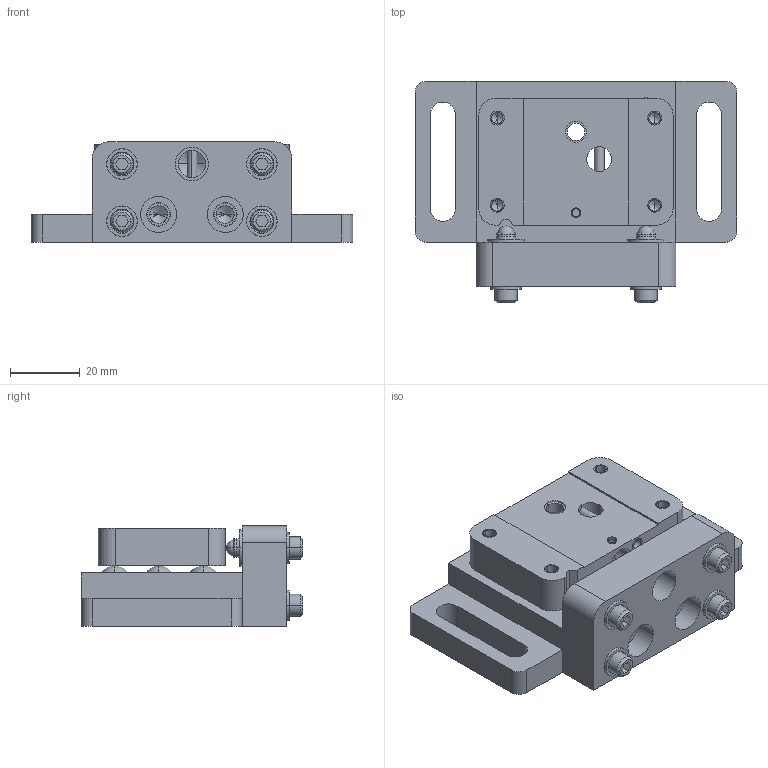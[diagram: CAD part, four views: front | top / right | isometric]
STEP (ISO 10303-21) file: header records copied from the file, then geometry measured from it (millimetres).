
FILE_DESCRIPTION((''),'2;1');
FILE_NAME('9071-M','2020-07-09T04:51:36',('Administrator'),(''),'CREO PARAMETRIC BY PTC INC, 2019292','CREO PARAMETRIC BY PTC INC, 2019292','');
FILE_SCHEMA(('AUTOMOTIVE_DESIGN { 1 0 10303 214 1 1 1 1 }'));
Length unit declared in the file: inch
Products named in the file (1): 9071-M
Bounding box: 92.08 x 63.35 x 28.73 mm (x, y, z)
Volume: 81269.5 mm3; surface area: 40886.2 mm2
Topology: 16 solids, 27 shells, 363 faces, 937 edges, 600 vertices
Faces by surface type: cylinder 171, plane 117, cone 53, sphere 14, torus 8
Entity records: 11730 total; most frequent: CARTESIAN_POINT 2642, DIRECTION 1962, ORIENTED_EDGE 1756, EDGE_CURVE 900, AXIS2_PLACEMENT_3D 764, VERTEX_POINT 600, EDGE_LOOP 444, VECTOR 431
